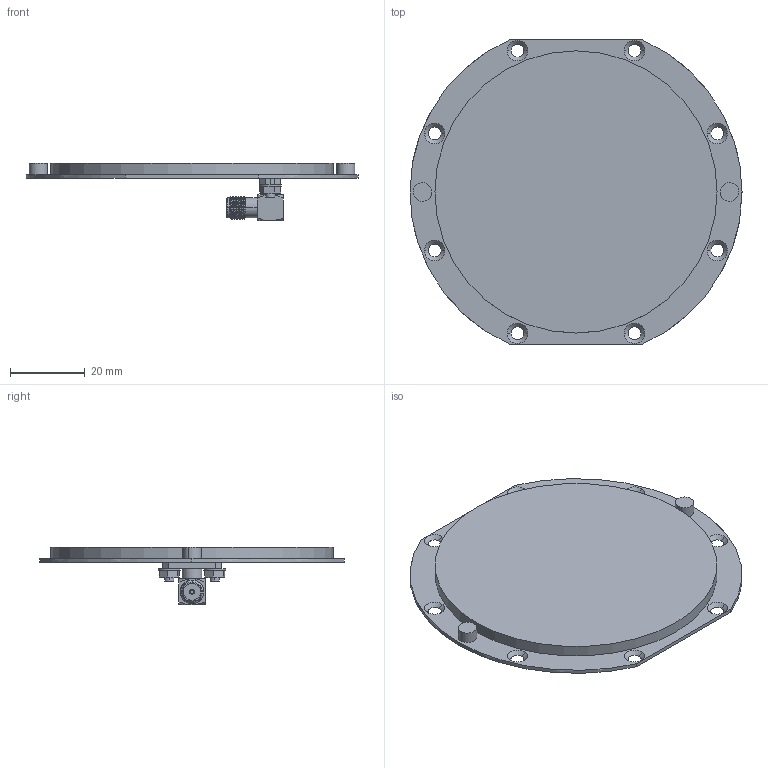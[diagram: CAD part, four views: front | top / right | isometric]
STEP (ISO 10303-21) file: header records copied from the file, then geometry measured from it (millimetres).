
FILE_DESCRIPTION(('CATIA V6 STEP','CAx-IF Rec.Pracs.--- Model Styling and Organization---1.2---2011-12-15'),'2;1');
FILE_NAME('G:\FSATI\FSATI COMPONENTS\20-00023 RevK SANT\RevK\SANT11 - Sanitised.stp','2016-11-17T08:11:45+00:00',('none'),('none'),'CATIA V6R2013x','DASSAULT SYSTEMES CATIA V6 STEP AP214','none');
FILE_SCHEMA(('AUTOMOTIVE_DESIGN { 1 0 10303 214 1 1 1 1 }'));
Length unit declared in the file: millimetre
Products named in the file (1): SANT11
Bounding box: 89 x 81.5 x 15.5 mm (x, y, z)
Volume: 20647.9 mm3; surface area: 14303.2 mm2
Topology: 2 solids, 6 shells, 353 faces, 831 edges, 504 vertices
Faces by surface type: plane 99, cone 90, cylinder 88, bspline 72, extrusion 4
Entity records: 11124 total; most frequent: CARTESIAN_POINT 4285, ORIENTED_EDGE 1646, DIRECTION 975, EDGE_CURVE 823, VERTEX_POINT 504, AXIS2_PLACEMENT_3D 455, EDGE_LOOP 397, ADVANCED_FACE 353
